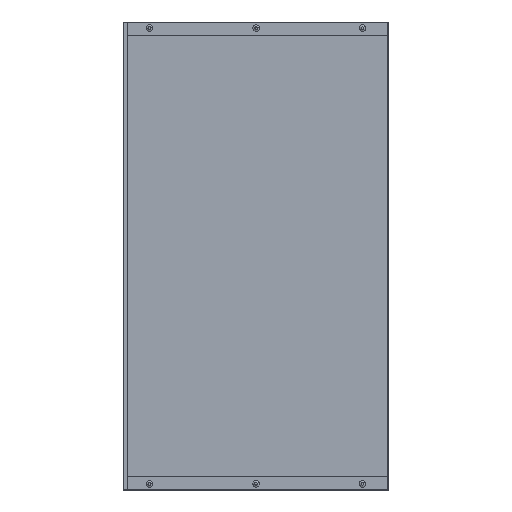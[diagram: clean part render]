
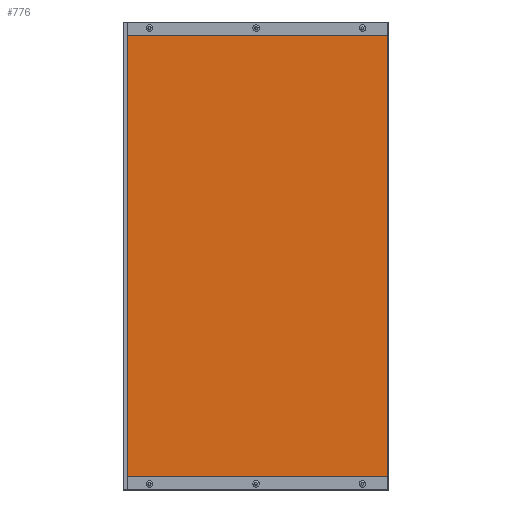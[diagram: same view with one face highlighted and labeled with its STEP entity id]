
A CAD part, front view. The second image highlights one B-rep face of the part: STEP entity #776.
In plain terms, the highlighted planar face has unit normal (0, -1, 0).
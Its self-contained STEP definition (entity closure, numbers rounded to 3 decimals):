
#154 = VECTOR ( 'NONE', #1295, 1000. ) ;
#569 = CARTESIAN_POINT ( 'NONE',  ( 488.6, 61.1, 854. ) ) ;
#632 = EDGE_CURVE ( 'NONE', #1840, #2387, #3040, .T. ) ;
#633 = VECTOR ( 'NONE', #2040, 1000. ) ;
#776 = ADVANCED_FACE ( 'NONE', ( #2017 ), #2784, .F. ) ;
#824 = CARTESIAN_POINT ( 'NONE',  ( -6.6, 61.1, 879. ) ) ;
#858 = CARTESIAN_POINT ( 'NONE',  ( 488.6, 61.1, 879. ) ) ;
#1067 = VERTEX_POINT ( 'NONE', #569 ) ;
#1105 = LINE ( 'NONE', #3834, #633 ) ;
#1140 = DIRECTION ( 'NONE',  ( 0., 0., -1. ) ) ;
#1160 = AXIS2_PLACEMENT_3D ( 'NONE', #2712, #2805, #4191 ) ;
#1295 = DIRECTION ( 'NONE',  ( -1., 0., 0. ) ) ;
#1439 = ORIENTED_EDGE ( 'NONE', *, *, #632, .F. ) ;
#1641 = EDGE_CURVE ( 'NONE', #1067, #2537, #1105, .T. ) ;
#1840 = VERTEX_POINT ( 'NONE', #2894 ) ;
#2017 = FACE_OUTER_BOUND ( 'NONE', #2057, .T. ) ;
#2040 = DIRECTION ( 'NONE',  ( -1., 0., 0. ) ) ;
#2057 = EDGE_LOOP ( 'NONE', ( #3477, #3829, #1439, #2851 ) ) ;
#2387 = VERTEX_POINT ( 'NONE', #2815 ) ;
#2537 = VERTEX_POINT ( 'NONE', #3930 ) ;
#2712 = CARTESIAN_POINT ( 'NONE',  ( -8., 61.1, 879. ) ) ;
#2784 = PLANE ( 'NONE',  #1160 ) ;
#2805 = DIRECTION ( 'NONE',  ( 0., 1., 0. ) ) ;
#2815 = CARTESIAN_POINT ( 'NONE',  ( -6.6, 61.1, 25. ) ) ;
#2851 = ORIENTED_EDGE ( 'NONE', *, *, #3780, .T. ) ;
#2894 = CARTESIAN_POINT ( 'NONE',  ( 488.6, 61.1, 25. ) ) ;
#2933 = EDGE_CURVE ( 'NONE', #2537, #2387, #3951, .T. ) ;
#2946 = VECTOR ( 'NONE', #3204, 1000. ) ;
#3040 = LINE ( 'NONE', #4422, #154 ) ;
#3204 = DIRECTION ( 'NONE',  ( 0., 0., 1. ) ) ;
#3477 = ORIENTED_EDGE ( 'NONE', *, *, #1641, .T. ) ;
#3681 = VECTOR ( 'NONE', #1140, 1000. ) ;
#3780 = EDGE_CURVE ( 'NONE', #1840, #1067, #3983, .T. ) ;
#3829 = ORIENTED_EDGE ( 'NONE', *, *, #2933, .T. ) ;
#3834 = CARTESIAN_POINT ( 'NONE',  ( 0., 61.1, 854. ) ) ;
#3930 = CARTESIAN_POINT ( 'NONE',  ( -6.6, 61.1, 854. ) ) ;
#3951 = LINE ( 'NONE', #824, #3681 ) ;
#3983 = LINE ( 'NONE', #858, #2946 ) ;
#4191 = DIRECTION ( 'NONE',  ( 0., 0., 1. ) ) ;
#4422 = CARTESIAN_POINT ( 'NONE',  ( -8., 61.1, 25. ) ) ;
